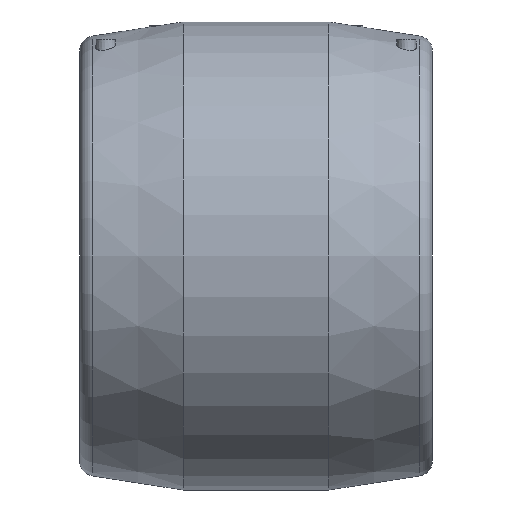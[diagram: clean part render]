
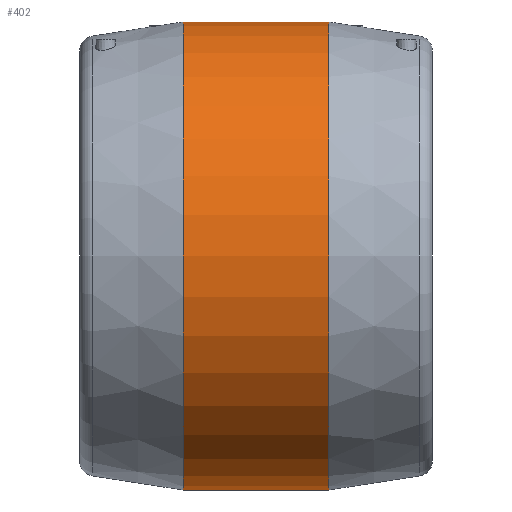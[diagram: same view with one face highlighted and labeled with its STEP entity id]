
A CAD part, front view. The second image highlights one B-rep face of the part: STEP entity #402.
In plain terms, the highlighted cylindrical face has radius 305 mm (diameter 610 mm), a full revolution.
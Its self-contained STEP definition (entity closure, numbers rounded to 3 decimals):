
#27=CYLINDRICAL_SURFACE('',#459,305.);
#54=CIRCLE('',#446,305.);
#56=CIRCLE('',#449,305.);
#104=ORIENTED_EDGE('',*,*,#170,.F.);
#105=ORIENTED_EDGE('',*,*,#164,.T.);
#164=EDGE_CURVE('',#202,#202,#54,.T.);
#170=EDGE_CURVE('',#208,#208,#56,.T.);
#202=VERTEX_POINT('',#711);
#208=VERTEX_POINT('',#783);
#264=EDGE_LOOP('',(#104));
#265=EDGE_LOOP('',(#105));
#338=FACE_BOUND('',#264,.T.);
#339=FACE_BOUND('',#265,.T.);
#402=ADVANCED_FACE('',(#338,#339),#27,.T.);
#446=AXIS2_PLACEMENT_3D('',#710,#515,#516);
#449=AXIS2_PLACEMENT_3D('',#782,#521,#522);
#459=AXIS2_PLACEMENT_3D('',#802,#541,#542);
#515=DIRECTION('',(-1.,0.,0.));
#516=DIRECTION('',(0.,0.,1.));
#521=DIRECTION('',(-1.,0.,0.));
#522=DIRECTION('',(0.,0.,1.));
#541=DIRECTION('',(-1.,0.,0.));
#542=DIRECTION('',(0.,0.,1.));
#710=CARTESIAN_POINT('',(95.,0.,0.));
#711=CARTESIAN_POINT('',(95.,0.,305.));
#782=CARTESIAN_POINT('',(-95.,0.,0.));
#783=CARTESIAN_POINT('',(-95.,0.,305.));
#802=CARTESIAN_POINT('',(-60.,0.,0.));
